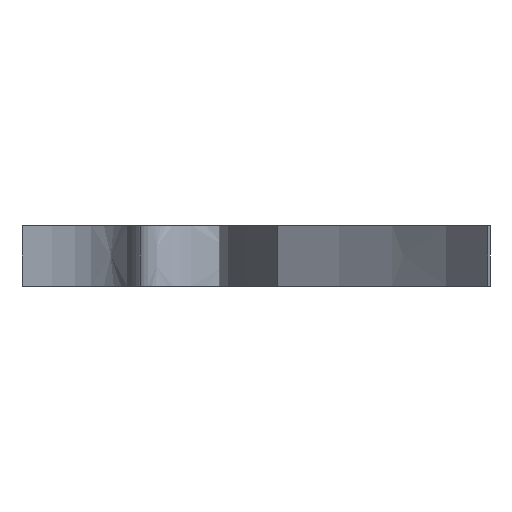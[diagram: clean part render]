
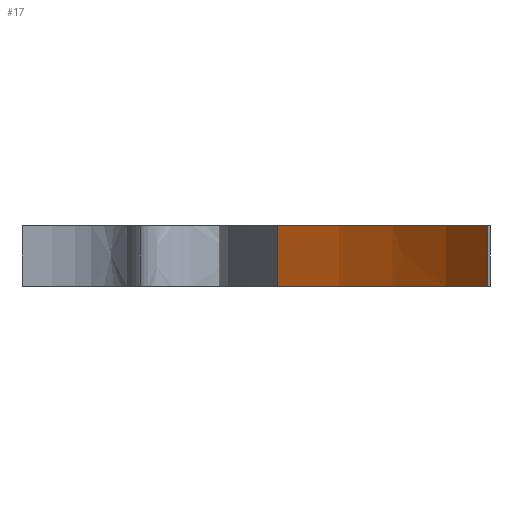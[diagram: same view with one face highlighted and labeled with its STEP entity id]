
A CAD part, front view. The second image highlights one B-rep face of the part: STEP entity #17.
In plain terms, the highlighted face is a extrusion surface.
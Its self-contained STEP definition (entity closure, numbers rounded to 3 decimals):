
#17 = ADVANCED_FACE('',(#18),#32,.T.);
#18 = FACE_BOUND('',#19,.T.);
#19 = EDGE_LOOP('',(#20,#57,#91,#119));
#20 = ORIENTED_EDGE('',*,*,#21,.F.);
#21 = EDGE_CURVE('',#22,#24,#26,.T.);
#22 = VERTEX_POINT('',#23);
#23 = CARTESIAN_POINT('',(142.594,-158.18,0.));
#24 = VERTEX_POINT('',#25);
#25 = CARTESIAN_POINT('',(90.89,-113.43,0.));
#26 = SURFACE_CURVE('',#27,(#31,#45),.PCURVE_S1.);
#27 = B_SPLINE_CURVE_WITH_KNOTS('',2,(#28,#29,#30),.UNSPECIFIED.,.F.,.F.
  ,(3,3),(0.,1.),.PIECEWISE_BEZIER_KNOTS.);
#28 = CARTESIAN_POINT('',(155.,-201.3,0.));
#29 = CARTESIAN_POINT('',(155.,-148.3,0.));
#30 = CARTESIAN_POINT('',(90.89,-113.43,0.));
#31 = PCURVE('',#32,#39);
#32 = SURFACE_OF_LINEAR_EXTRUSION('',#33,#37);
#33 = B_SPLINE_CURVE_WITH_KNOTS('',2,(#34,#35,#36),.UNSPECIFIED.,.F.,.F.
  ,(3,3),(0.,1.),.PIECEWISE_BEZIER_KNOTS.);
#34 = CARTESIAN_POINT('',(155.,-201.3,0.));
#35 = CARTESIAN_POINT('',(155.,-148.3,0.));
#36 = CARTESIAN_POINT('',(90.89,-113.43,0.));
#37 = VECTOR('',#38,1.);
#38 = DIRECTION('',(-0.,-0.,-1.));
#39 = DEFINITIONAL_REPRESENTATION('',(#40),#44);
#40 = LINE('',#41,#42);
#41 = CARTESIAN_POINT('',(0.,0.));
#42 = VECTOR('',#43,1.);
#43 = DIRECTION('',(1.,0.));
#44 = ( GEOMETRIC_REPRESENTATION_CONTEXT(2) 
PARAMETRIC_REPRESENTATION_CONTEXT() REPRESENTATION_CONTEXT('2D SPACE',''
  ) );
#45 = PCURVE('',#46,#51);
#46 = PLANE('',#47);
#47 = AXIS2_PLACEMENT_3D('',#48,#49,#50);
#48 = CARTESIAN_POINT('',(102.497,-62.031,0.));
#49 = DIRECTION('',(0.,0.,1.));
#50 = DIRECTION('',(1.,0.,0.));
#51 = DEFINITIONAL_REPRESENTATION('',(#52),#56);
#52 = B_SPLINE_CURVE_WITH_KNOTS('',2,(#53,#54,#55),.UNSPECIFIED.,.F.,.F.
  ,(3,3),(0.,1.),.PIECEWISE_BEZIER_KNOTS.);
#53 = CARTESIAN_POINT('',(52.503,-139.269));
#54 = CARTESIAN_POINT('',(52.503,-86.269));
#55 = CARTESIAN_POINT('',(-11.607,-51.399));
#56 = ( GEOMETRIC_REPRESENTATION_CONTEXT(2) 
PARAMETRIC_REPRESENTATION_CONTEXT() REPRESENTATION_CONTEXT('2D SPACE',''
  ) );
#57 = ORIENTED_EDGE('',*,*,#58,.F.);
#58 = EDGE_CURVE('',#59,#22,#61,.T.);
#59 = VERTEX_POINT('',#60);
#60 = CARTESIAN_POINT('',(142.594,-158.18,15.));
#61 = SURFACE_CURVE('',#62,(#68,#77),.PCURVE_S1.);
#62 = B_SPLINE_CURVE_WITH_KNOTS('',4,(#63,#64,#65,#66,#67),
  .UNSPECIFIED.,.F.,.F.,(5,5),(0.,1.),.PIECEWISE_BEZIER_KNOTS.);
#63 = CARTESIAN_POINT('',(142.594,-158.18,15.));
#64 = CARTESIAN_POINT('',(142.594,-158.18,11.25));
#65 = CARTESIAN_POINT('',(142.594,-158.18,7.5));
#66 = CARTESIAN_POINT('',(142.594,-158.18,3.75));
#67 = CARTESIAN_POINT('',(142.594,-158.18,0.));
#68 = PCURVE('',#32,#69);
#69 = DEFINITIONAL_REPRESENTATION('',(#70),#76);
#70 = B_SPLINE_CURVE_WITH_KNOTS('',4,(#71,#72,#73,#74,#75),
  .UNSPECIFIED.,.F.,.F.,(5,5),(0.,1.),.PIECEWISE_BEZIER_KNOTS.);
#71 = CARTESIAN_POINT('',(0.44,-15.));
#72 = CARTESIAN_POINT('',(0.44,-11.25));
#73 = CARTESIAN_POINT('',(0.44,-7.5));
#74 = CARTESIAN_POINT('',(0.44,-3.75));
#75 = CARTESIAN_POINT('',(0.44,0.));
#76 = ( GEOMETRIC_REPRESENTATION_CONTEXT(2) 
PARAMETRIC_REPRESENTATION_CONTEXT() REPRESENTATION_CONTEXT('2D SPACE',''
  ) );
#77 = PCURVE('',#78,#83);
#78 = CYLINDRICAL_SURFACE('',#79,41.899);
#79 = AXIS2_PLACEMENT_3D('',#80,#81,#82);
#80 = CARTESIAN_POINT('',(135.369,-199.451,0.));
#81 = DIRECTION('',(-0.,-0.,-1.));
#82 = DIRECTION('',(1.,0.,0.));
#83 = DEFINITIONAL_REPRESENTATION('',(#84),#90);
#84 = B_SPLINE_CURVE_WITH_KNOTS('',4,(#85,#86,#87,#88,#89),
  .UNSPECIFIED.,.F.,.F.,(5,5),(0.,1.),.PIECEWISE_BEZIER_KNOTS.);
#85 = CARTESIAN_POINT('',(-1.397,-15.));
#86 = CARTESIAN_POINT('',(-1.397,-11.25));
#87 = CARTESIAN_POINT('',(-1.397,-7.5));
#88 = CARTESIAN_POINT('',(-1.397,-3.75));
#89 = CARTESIAN_POINT('',(-1.397,0.));
#90 = ( GEOMETRIC_REPRESENTATION_CONTEXT(2) 
PARAMETRIC_REPRESENTATION_CONTEXT() REPRESENTATION_CONTEXT('2D SPACE',''
  ) );
#91 = ORIENTED_EDGE('',*,*,#92,.T.);
#92 = EDGE_CURVE('',#59,#93,#95,.T.);
#93 = VERTEX_POINT('',#94);
#94 = CARTESIAN_POINT('',(90.89,-113.43,15.));
#95 = SURFACE_CURVE('',#96,(#100,#107),.PCURVE_S1.);
#96 = B_SPLINE_CURVE_WITH_KNOTS('',2,(#97,#98,#99),.UNSPECIFIED.,.F.,.F.
  ,(3,3),(0.,1.),.PIECEWISE_BEZIER_KNOTS.);
#97 = CARTESIAN_POINT('',(155.,-201.3,15.));
#98 = CARTESIAN_POINT('',(155.,-148.3,15.));
#99 = CARTESIAN_POINT('',(90.89,-113.43,15.));
#100 = PCURVE('',#32,#101);
#101 = DEFINITIONAL_REPRESENTATION('',(#102),#106);
#102 = LINE('',#103,#104);
#103 = CARTESIAN_POINT('',(0.,-15.));
#104 = VECTOR('',#105,1.);
#105 = DIRECTION('',(1.,0.));
#106 = ( GEOMETRIC_REPRESENTATION_CONTEXT(2) 
PARAMETRIC_REPRESENTATION_CONTEXT() REPRESENTATION_CONTEXT('2D SPACE',''
  ) );
#107 = PCURVE('',#108,#113);
#108 = PLANE('',#109);
#109 = AXIS2_PLACEMENT_3D('',#110,#111,#112);
#110 = CARTESIAN_POINT('',(102.497,-62.031,15.));
#111 = DIRECTION('',(0.,0.,1.));
#112 = DIRECTION('',(1.,0.,0.));
#113 = DEFINITIONAL_REPRESENTATION('',(#114),#118);
#114 = B_SPLINE_CURVE_WITH_KNOTS('',2,(#115,#116,#117),.UNSPECIFIED.,.F.
  ,.F.,(3,3),(0.,1.),.PIECEWISE_BEZIER_KNOTS.);
#115 = CARTESIAN_POINT('',(52.503,-139.269));
#116 = CARTESIAN_POINT('',(52.503,-86.269));
#117 = CARTESIAN_POINT('',(-11.607,-51.399));
#118 = ( GEOMETRIC_REPRESENTATION_CONTEXT(2) 
PARAMETRIC_REPRESENTATION_CONTEXT() REPRESENTATION_CONTEXT('2D SPACE',''
  ) );
#119 = ORIENTED_EDGE('',*,*,#120,.F.);
#120 = EDGE_CURVE('',#24,#93,#121,.T.);
#121 = SURFACE_CURVE('',#122,(#126,#133),.PCURVE_S1.);
#122 = LINE('',#123,#124);
#123 = CARTESIAN_POINT('',(90.89,-113.43,0.));
#124 = VECTOR('',#125,1.);
#125 = DIRECTION('',(0.,0.,1.));
#126 = PCURVE('',#32,#127);
#127 = DEFINITIONAL_REPRESENTATION('',(#128),#132);
#128 = LINE('',#129,#130);
#129 = CARTESIAN_POINT('',(1.,0.));
#130 = VECTOR('',#131,1.);
#131 = DIRECTION('',(0.,-1.));
#132 = ( GEOMETRIC_REPRESENTATION_CONTEXT(2) 
PARAMETRIC_REPRESENTATION_CONTEXT() REPRESENTATION_CONTEXT('2D SPACE',''
  ) );
#133 = PCURVE('',#134,#141);
#134 = SURFACE_OF_LINEAR_EXTRUSION('',#135,#139);
#135 = B_SPLINE_CURVE_WITH_KNOTS('',2,(#136,#137,#138),.UNSPECIFIED.,.F.
  ,.F.,(3,3),(0.,1.),.PIECEWISE_BEZIER_KNOTS.);
#136 = CARTESIAN_POINT('',(90.89,-113.43,0.));
#137 = CARTESIAN_POINT('',(53.16,-58.41,0.));
#138 = CARTESIAN_POINT('',(112.883,0.,0.));
#139 = VECTOR('',#140,1.);
#140 = DIRECTION('',(-0.,-0.,-1.));
#141 = DEFINITIONAL_REPRESENTATION('',(#142),#146);
#142 = LINE('',#143,#144);
#143 = CARTESIAN_POINT('',(0.,0.));
#144 = VECTOR('',#145,1.);
#145 = DIRECTION('',(0.,-1.));
#146 = ( GEOMETRIC_REPRESENTATION_CONTEXT(2) 
PARAMETRIC_REPRESENTATION_CONTEXT() REPRESENTATION_CONTEXT('2D SPACE',''
  ) );
